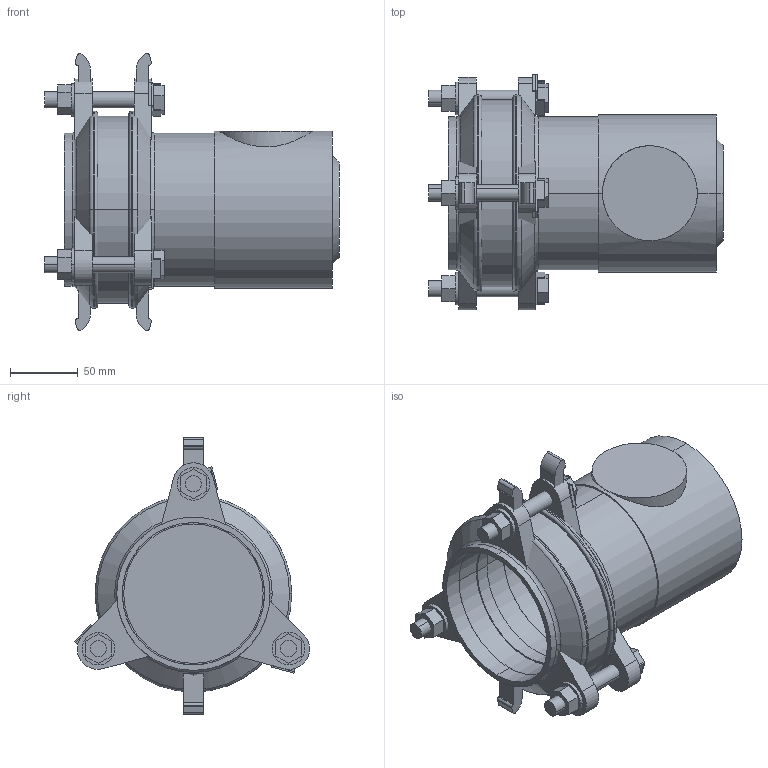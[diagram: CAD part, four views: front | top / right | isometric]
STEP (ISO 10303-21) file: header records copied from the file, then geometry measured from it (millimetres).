
FILE_DESCRIPTION(('STEP AP214'),'1');
FILE_NAME('HDA00039 DN 80.STP','2015-02-06T09:52:06',(' '),(' '),'Spatial InterOp 3D',' ',' ');
FILE_SCHEMA(('automotive_design'));
Length unit declared in the file: millimetre
Products named in the file (35): 3D-Objekt
Bounding box: 217 x 173.26 x 204 mm (x, y, z)
Volume: 852415.2 mm3; surface area: 313642.7 mm2
Topology: 35 solids, 35 shells, 277 faces, 612 edges, 406 vertices
Faces by surface type: plane 182, cylinder 73, torus 12, cone 10
Entity records: 10826 total; most frequent: CARTESIAN_POINT 1461, DIRECTION 1432, ORIENTED_EDGE 1224, EDGE_CURVE 612, AXIS2_PLACEMENT_3D 510, LINE 412, VECTOR 412, VERTEX_POINT 406
